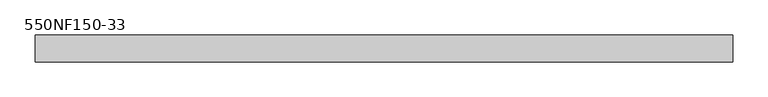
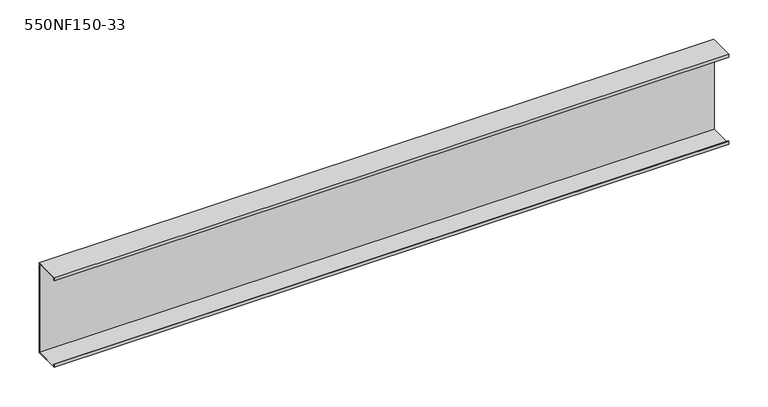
"""IFC4 building model written with IfcOpenShell, lengths in millimetres: beam geometry, BIMSF-SSMA-S : 550NF150-33."""

import ifcopenshell
import ifcopenshell.guid

model = None  # the IFC model being written
_history = None  # IfcOwnerHistory: only IFC2X3 demands one
_inside = {}  # id of a spatial element -> (the spatial element, [elements in it])
_under = {}  # id of a project, library or spatial element -> (it, [spatial elements below it])
_declared = {}  # id of a project -> (the project, [libraries it declares])
_typed = {}  # id of a type object -> (the type object, [elements of that type])
_made_of = {}  # id of a material, layer set ... -> (it, [elements and type objects made of it])


def new_model(schema):
    """Start an empty IFC model of exactly this schema.

    Asked for "IFC4X3", IfcOpenShell would pick the latest addendum, in which some entities
    have other attributes; the version numbers below select the first issue.
    IFC2X3 requires an IfcOwnerHistory on every rooted entity: one is made here for all.
    """
    global model, _history
    if schema == "IFC4X3":
        model = ifcopenshell.file(schema_version=(4, 3, 0, 0))
    else:
        model = ifcopenshell.file(schema=schema)
    _inside.clear()
    _under.clear()
    _declared.clear()
    _typed.clear()
    _made_of.clear()
    _history = None
    if model.schema == "IFC2X3":
        org = make("IfcOrganization", Name="unknown")
        user = make(
            "IfcPersonAndOrganization",
            ThePerson=make("IfcPerson", FamilyName="unknown"),
            TheOrganization=org,
        )
        app = make(
            "IfcApplication",
            ApplicationDeveloper=org,
            Version="unknown",
            ApplicationFullName="unknown",
            ApplicationIdentifier="unknown",
        )
        _history = make(
            "IfcOwnerHistory",
            OwningUser=user,
            OwningApplication=app,
            ChangeAction="ADDED",
            CreationDate=0,
        )
    return model


def make(cls, **values):
    """One entity of the class cls with the attributes given. An attribute that is None is left unset."""
    return model.create_entity(
        cls, **{name: value for name, value in values.items() if value is not None}
    )


def rooted(cls, **values):
    """An entity with a GlobalId (a new one), such as an element, a storey or a relation."""
    return make(cls, GlobalId=ifcopenshell.guid.new(), OwnerHistory=_history, **values)


def si_unit(unit_type, name, prefix=None):
    """IfcSIUnit, for example si_unit("LENGTHUNIT", "METRE", prefix="MILLI")."""
    return make("IfcSIUnit", UnitType=unit_type, Prefix=prefix, Name=name)


def assignment(units):
    """IfcUnitAssignment: the units of a project."""
    return None if units is None else make("IfcUnitAssignment", Units=units)


def point(xyz):
    """IfcCartesianPoint."""
    return None if xyz is None else make("IfcCartesianPoint", Coordinates=xyz)


def direction(xyz):
    """IfcDirection."""
    return None if xyz is None else make("IfcDirection", DirectionRatios=xyz)


def frame(location, z_axis=None, x_axis=None):
    """IfcAxis2Placement3D, a coordinate frame: its origin and axes. An axis left out is left unset."""
    return make(
        "IfcAxis2Placement3D",
        Location=point(location),
        Axis=direction(z_axis),
        RefDirection=direction(x_axis),
    )


def origin():
    """The frame at (0, 0, 0) with its axes left unset."""
    return frame((0.0, 0.0, 0.0))


def place(relative_to, where):
    """IfcLocalPlacement: puts the frame where relative to a parent placement (None: the world)."""
    return make(
        "IfcLocalPlacement", PlacementRelTo=relative_to, RelativePlacement=where
    )


def context(
    kind, dimensions, precision=None, world=None, true_north=None, identifier=None
):
    """IfcGeometricRepresentationContext, for example the 3D "Model" context."""
    return make(
        "IfcGeometricRepresentationContext",
        ContextIdentifier=identifier,
        ContextType=kind,
        CoordinateSpaceDimension=dimensions,
        Precision=precision,
        WorldCoordinateSystem=world,
        TrueNorth=true_north,
    )


def project(units=None, contexts=None):
    """IfcProject with its units and contexts."""
    return rooted(
        "IfcProject",
        Name="project",
        RepresentationContexts=contexts,
        UnitsInContext=assignment(units),
    )


def spatial(cls, under=None, at=None, **own):
    """A site, building, storey or space (cls), placed at a placement, below another one or the project."""
    s = rooted(cls, ObjectPlacement=at, **own)
    if under is not None:
        _under.setdefault(under.id(), (under, []))[1].append(s)
    return s


def polyline(points):
    """IfcPolyline through the points."""
    return make("IfcPolyline", Points=[point(p) for p in points])


def outline(outer, holes=None, kind="AREA"):
    """IfcArbitraryClosedProfileDef: a profile drawn as a closed curve; with holes, ...WithVoids."""
    if holes is None:
        return make("IfcArbitraryClosedProfileDef", ProfileType=kind, OuterCurve=outer)
    return make(
        "IfcArbitraryProfileDefWithVoids",
        ProfileType=kind,
        OuterCurve=outer,
        InnerCurves=holes,
    )


def extrude(swept, where, along, depth):
    """IfcExtrudedAreaSolid: the profile swept, set in the frame where, extruded along a direction by depth."""
    return make(
        "IfcExtrudedAreaSolid",
        SweptArea=swept,
        Position=where,
        ExtrudedDirection=direction(along),
        Depth=depth,
    )


def shape(context_of_items, identifier, shape_type, items):
    """IfcShapeRepresentation: the items that make up one representation, for example the "Body"."""
    return make(
        "IfcShapeRepresentation",
        ContextOfItems=context_of_items,
        RepresentationIdentifier=identifier,
        RepresentationType=shape_type,
        Items=items,
    )


def source(mapping_origin, context_of_items, identifier, shape_type, items):
    """IfcRepresentationMap: a shape defined once, which mapped items show again and again."""
    return make(
        "IfcRepresentationMap",
        MappingOrigin=mapping_origin,
        MappedRepresentation=shape(context_of_items, identifier, shape_type, items),
    )


def transform(
    local_origin,
    x_axis=None,
    y_axis=None,
    z_axis=None,
    scale=None,
    scale2=None,
    scale3=None,
    uniform=True,
):
    """IfcCartesianTransformationOperator3D, or its non-uniform kind. x_axis, y_axis, z_axis: its Axis1, 2, 3."""
    if uniform:
        return make(
            "IfcCartesianTransformationOperator3D",
            Axis1=direction(x_axis),
            Axis2=direction(y_axis),
            LocalOrigin=point(local_origin),
            Scale=scale,
            Axis3=direction(z_axis),
        )
    return make(
        "IfcCartesianTransformationOperator3DnonUniform",
        Axis1=direction(x_axis),
        Axis2=direction(y_axis),
        LocalOrigin=point(local_origin),
        Scale=scale,
        Axis3=direction(z_axis),
        Scale2=scale2,
        Scale3=scale3,
    )


def mapped(mapping_source, mapping_target):
    """IfcMappedItem: shows the shape of a source again, moved by a transform."""
    return make(
        "IfcMappedItem", MappingSource=mapping_source, MappingTarget=mapping_target
    )


def made_of(thing, what):
    """Note that an element or type object is made of a material, layer set ...; save() writes the relation."""
    if what is not None:
        _made_of.setdefault(what.id(), (what, []))[1].append(thing)
    return thing


def element(
    cls,
    number,
    at=None,
    inside=None,
    cuts=None,
    type_object=None,
    material=None,
    context=None,
    identifier="Body",
    shape_type=None,
    held_by="IfcProductDefinitionShape",
    body=None,
    shapes=None,
    **own,
):
    """One element of the class cls, such as IfcWall. Its Tag is "e" and its number.

    at: its placement. inside: the storey or other place that contains it. cuts: it is an
    opening in that element (IfcRelVoidsElement). A single representation is given by context,
    identifier, shape_type and body (its items); several are given by shapes. held_by: the class
    of the entity that holds the representations. save() writes the other relations.
    """
    e = rooted(cls, Tag="e%d" % number, ObjectPlacement=at, **own)
    if body is not None:
        shapes = [shape(context, identifier, shape_type, body)]
    if shapes is not None:
        e.Representation = make(held_by, Representations=shapes)
    if inside is not None:
        _inside.setdefault(inside.id(), (inside, []))[1].append(e)
    if cuts is not None:
        rooted(
            "IfcRelVoidsElement", RelatingBuildingElement=cuts, RelatedOpeningElement=e
        )
    if type_object is not None:
        _typed.setdefault(type_object.id(), (type_object, []))[1].append(e)
    return made_of(e, material)


def aggregate(whole, parts):
    """IfcRelAggregates: a whole, such as a stair, and the parts it consists of."""
    return rooted("IfcRelAggregates", RelatingObject=whole, RelatedObjects=parts)


def save(model, path):
    """Write the relations noted so far, then the file.

    IfcRelAggregates (storeys below a building ...), IfcRelContainedInSpatialStructure (elements
    in a storey), IfcRelDefinesByType, IfcRelAssociatesMaterial and IfcRelDeclares: one each for
    every whole, place, type object, material and project.
    """
    for whole, parts in _under.values():
        aggregate(whole, parts)
    for where, things in _inside.values():
        rooted(
            "IfcRelContainedInSpatialStructure",
            RelatedElements=things,
            RelatingStructure=where,
        )
    for kind, things in _typed.values():
        rooted("IfcRelDefinesByType", RelatedObjects=things, RelatingType=kind)
    for what, things in _made_of.values():
        rooted("IfcRelAssociatesMaterial", RelatedObjects=things, RelatingMaterial=what)
    for by, libraries in _declared.values():
        rooted("IfcRelDeclares", RelatingContext=by, RelatedDefinitions=libraries)
    model.write(path)


def beam_550nf150_33_5edfe896(model_context):
    return source(origin(), model_context, "Body", "SweptSolid", [
        extrude(outline(polyline([(19.05, 69.85), (19.05, -69.85), (-19.05, -69.85), (-19.05, -65.0748), (-18.1676842, -65.0748), (-18.1676842, -68.9676842), (18.1676842, -68.9676842), (18.1676842, 68.9676842), (-18.1676842, 68.9676842), (-18.1676842, 65.0748), (-19.05, 65.0748), (-19.05, 69.85), (19.05, 69.85)])), frame((-495.3, 0.0, 0.0), z_axis=(1.0, 0.0, 0.0), x_axis=(0.0, 1.0, 0.0)), (0.0, 0.0, 1.0), 990.6),
    ])


if __name__ == "__main__":
    model = new_model("IFC4")
    model_context = context("Model", 3, world=origin())
    ifc_project = project(units=[si_unit("LENGTHUNIT", "METRE", prefix="MILLI")], contexts=[model_context])
    site = spatial("IfcSite", under=ifc_project)
    building = spatial("IfcBuilding", under=site)
    placement = place(None, origin())
    beam_550nf150_33_shape = beam_550nf150_33_5edfe896(model_context)
    element("IfcBeam", 1, ObjectType="BIMSF-SSMA-S : 550NF150-33", at=placement, inside=building, context=model_context, shape_type="MappedRepresentation", body=[
        mapped(beam_550nf150_33_shape, transform((0.0, 0.0, 0.0), x_axis=(1.0, 0.0, 0.0), y_axis=(0.0, 1.0, 0.0), z_axis=(0.0, 0.0, 1.0))),
    ])
    save(model, "model.ifc")
